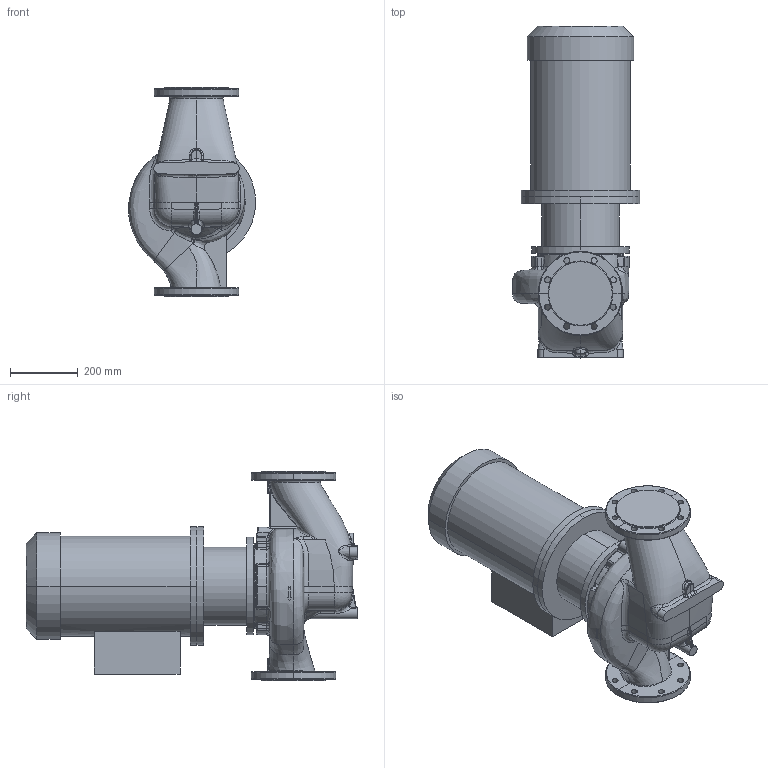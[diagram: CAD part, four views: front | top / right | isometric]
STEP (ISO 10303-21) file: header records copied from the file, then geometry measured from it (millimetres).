
FILE_DESCRIPTION (( 'STEP AP203' ), '1' );
FILE_NAME ('KRL 125-160-140_2-15.STEP', '2026-05-12T13:26:49', ( '' ), ( '' ), 'SwSTEP 2.0', 'SolidWorks 2016', '' );
FILE_SCHEMA (( 'CONFIG_CONTROL_DESIGN' ));
Length unit declared in the file: millimetre
Products named in the file (1): KRL 125-160-140_2-15
Bounding box: 376.32 x 980.8 x 620 mm (x, y, z)
Volume: 75876489.3 mm3; surface area: 2042454.5 mm2
Topology: 4 solids, 4 shells, 630 faces, 1557 edges, 939 vertices
Faces by surface type: bspline 290, cylinder 158, plane 97, torus 41, cone 32, sphere 12
Entity records: 63070 total; most frequent: CARTESIAN_POINT 50690, ORIENTED_EDGE 3086, DIRECTION 1855, EDGE_CURVE 1543, VERTEX_POINT 939, AXIS2_PLACEMENT_3D 791, B_SPLINE_CURVE_WITH_KNOTS 733, EDGE_LOOP 680
